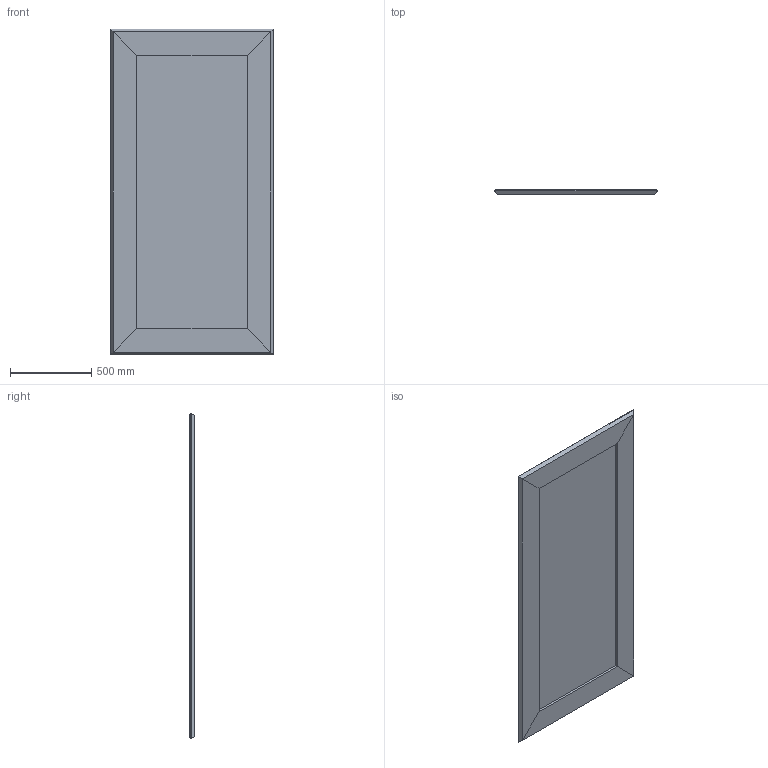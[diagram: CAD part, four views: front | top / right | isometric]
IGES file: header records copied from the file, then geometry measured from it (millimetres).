
Start section: SolidWorks IGES file using analytic representation for surfaces
Global section: file name: Y:\eforma\TECNICO\SOLIDWORKS\E-FORMA\4-SPECCHI\PRISMA\02 parts\PRI05_Prisma_200x100.IGS; native system: SolidWorks 2022; preprocessor: SolidWorks 2022; author: eforma.tech; date: 240806.094723; units: millimetre
Bounding box: 1000 x 30 x 2000 mm (x, y, z)
Volume: 35235911.3 mm3; surface area: 4641259.5 mm2
Topology: 5 solids, 5 shells, 166 faces, 424 edges, 272 vertices
Faces by surface type: plane 98, revolution 68
